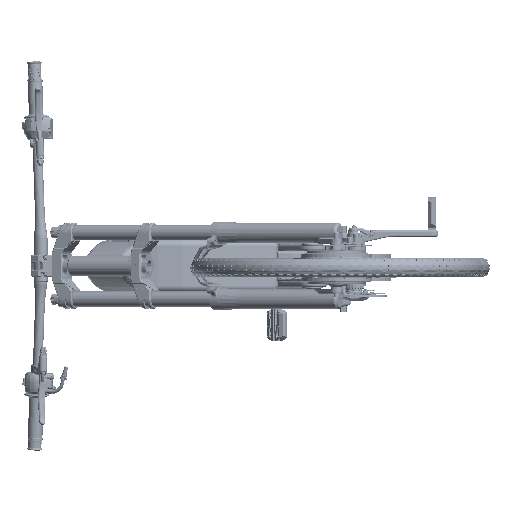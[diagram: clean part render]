
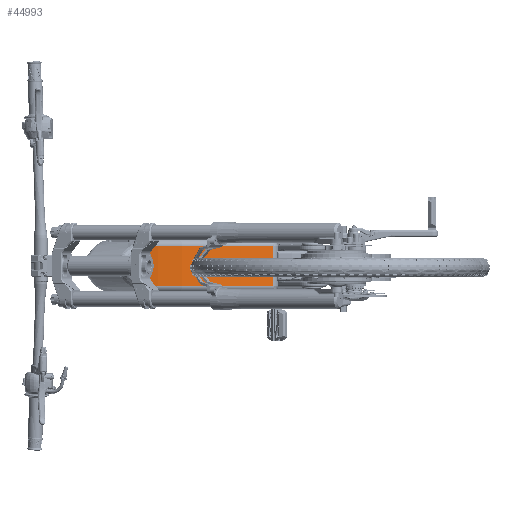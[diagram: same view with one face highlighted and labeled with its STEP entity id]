
A CAD part, left-side view. The second image highlights one B-rep face of the part: STEP entity #44993.
In plain terms, the highlighted cylindrical face has radius 600.925 mm (diameter 1201.85 mm), a partial arc.
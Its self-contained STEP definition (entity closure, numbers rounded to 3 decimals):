
#18487=DIRECTION('',(0.,0.,1.));
#18488=VECTOR('',#18487,90.);
#18489=CARTESIAN_POINT('',(-124.238,183.476,-45.));
#18490=LINE('',#18489,#18488);
#18506=CARTESIAN_POINT('',(-690.506,-17.65,-45.));
#18507=DIRECTION('',(0.,0.,1.));
#18508=DIRECTION('',(0.942,0.335,0.));
#18509=AXIS2_PLACEMENT_3D('',#18506,#18507,#18508);
#18511=CARTESIAN_POINT('',(-306.568,444.63,-45.));
#18512=CARTESIAN_POINT('',(-312.681,449.706,
-45.));
#18513=CARTESIAN_POINT('',(-324.783,459.334,
-44.176));
#18514=CARTESIAN_POINT('',(-341.445,471.647,
-41.136));
#18515=CARTESIAN_POINT('',(-359.411,484.002,
-35.874));
#18516=CARTESIAN_POINT('',(-378.727,496.241,
-27.766));
#18517=CARTESIAN_POINT('',(-392.275,504.108,
-20.157));
#18518=CARTESIAN_POINT('',(-399.175,507.932,
-15.698));
#18520=CARTESIAN_POINT('',(-398.86,507.758,
-14.903));
#18521=CARTESIAN_POINT('',(-398.912,507.786,
-15.036));
#18522=CARTESIAN_POINT('',(-399.015,507.844,
-15.302));
#18523=CARTESIAN_POINT('',(-399.121,507.903,
-15.566));
#18524=CARTESIAN_POINT('',(-399.175,507.932,
-15.698));
#18526=CARTESIAN_POINT('',(-396.129,506.233,
0.));
#18527=CARTESIAN_POINT('',(-396.13,506.233,
-2.59));
#18528=CARTESIAN_POINT('',(-396.599,506.497,
-7.664));
#18529=CARTESIAN_POINT('',(-397.951,507.253,
-12.527));
#18530=CARTESIAN_POINT('',(-398.86,507.758,
-14.903));
#18532=CARTESIAN_POINT('',(-396.129,506.233,
0.));
#18533=CARTESIAN_POINT('',(-396.13,506.233,
2.59));
#18534=CARTESIAN_POINT('',(-396.599,506.497,
7.664));
#18535=CARTESIAN_POINT('',(-397.951,507.253,
12.527));
#18536=CARTESIAN_POINT('',(-398.86,507.758,
14.903));
#18538=CARTESIAN_POINT('',(-398.86,507.758,
14.903));
#18539=CARTESIAN_POINT('',(-398.912,507.786,
15.036));
#18540=CARTESIAN_POINT('',(-399.015,507.844,
15.302));
#18541=CARTESIAN_POINT('',(-399.121,507.903,
15.566));
#18542=CARTESIAN_POINT('',(-399.175,507.932,
15.698));
#18544=CARTESIAN_POINT('',(-306.568,444.63,45.));
#18545=CARTESIAN_POINT('',(-312.681,449.706,
45.));
#18546=CARTESIAN_POINT('',(-324.783,459.334,
44.176));
#18547=CARTESIAN_POINT('',(-341.445,471.647,
41.136));
#18548=CARTESIAN_POINT('',(-359.411,484.002,
35.874));
#18549=CARTESIAN_POINT('',(-378.727,496.241,
27.766));
#18550=CARTESIAN_POINT('',(-392.275,504.108,
20.157));
#18551=CARTESIAN_POINT('',(-399.175,507.932,
15.698));
#18553=CARTESIAN_POINT('',(-690.506,-17.65,45.));
#18554=DIRECTION('',(0.,0.,1.));
#18555=DIRECTION('',(0.942,0.335,0.));
#18556=AXIS2_PLACEMENT_3D('',#18553,#18554,#18555);
#20915=CARTESIAN_POINT('',(-398.86,507.758,
14.903));
#20917=VERTEX_POINT('',#20915);
#20944=CARTESIAN_POINT('',(-124.238,183.476,45.));
#20945=VERTEX_POINT('',#20944);
#20948=CARTESIAN_POINT('',(-306.568,444.63,45.));
#20949=VERTEX_POINT('',#20948);
#20953=VERTEX_POINT('',#18551);
#21099=CARTESIAN_POINT('',(-398.86,507.758,
-14.903));
#21101=VERTEX_POINT('',#21099);
#21128=CARTESIAN_POINT('',(-124.238,183.476,-45.));
#21129=VERTEX_POINT('',#21128);
#21132=CARTESIAN_POINT('',(-306.568,444.63,-45.));
#21133=VERTEX_POINT('',#21132);
#21137=VERTEX_POINT('',#18518);
#21293=CARTESIAN_POINT('',(-396.129,506.233,
0.));
#21294=VERTEX_POINT('',#21293);
#44970=CARTESIAN_POINT('',(-690.506,-17.65,0.));
#44971=DIRECTION('',(0.,0.,1.));
#44972=DIRECTION('',(1.,0.,0.));
#44973=AXIS2_PLACEMENT_3D('',#44970,#44971,#44972);
#44974=CYLINDRICAL_SURFACE('',#44973,600.925);
#44975=ORIENTED_EDGE('',*,*,#44924,.F.);
#44976=ORIENTED_EDGE('',*,*,#44961,.T.);
#44978=ORIENTED_EDGE('',*,*,#44977,.T.);
#44980=ORIENTED_EDGE('',*,*,#44979,.F.);
#44982=ORIENTED_EDGE('',*,*,#44981,.F.);
#44984=ORIENTED_EDGE('',*,*,#44983,.T.);
#44986=ORIENTED_EDGE('',*,*,#44985,.T.);
#44988=ORIENTED_EDGE('',*,*,#44987,.F.);
#44990=ORIENTED_EDGE('',*,*,#44989,.F.);
#44991=EDGE_LOOP('',(#44975,#44976,#44978,#44980,#44982,#44984,#44986,#44988,
#44990));
#44992=FACE_OUTER_BOUND('',#44991,.F.);
#44993=ADVANCED_FACE('',(#44992),#44974,.F.);
#18510=CIRCLE('',#18509,600.925);
#18519=B_SPLINE_CURVE_WITH_KNOTS('',3,(#18511,#18512,#18513,#18514,#18515,
#18516,#18517,#18518),.UNSPECIFIED.,.F.,.F.,(4,1,1,1,1,4),(0.,0.2,0.4,
0.6,0.8,1.),.UNSPECIFIED.);
#18525=B_SPLINE_CURVE_WITH_KNOTS('',3,(#18520,#18521,#18522,#18523,#18524),
.UNSPECIFIED.,.F.,.F.,(4,1,4),(0.,0.5,1.),.UNSPECIFIED.);
#18531=B_SPLINE_CURVE_WITH_KNOTS('',3,(#18526,#18527,#18528,#18529,#18530),
.UNSPECIFIED.,.F.,.F.,(4,1,4),(0.,0.5,1.),.UNSPECIFIED.);
#18537=B_SPLINE_CURVE_WITH_KNOTS('',3,(#18532,#18533,#18534,#18535,#18536),
.UNSPECIFIED.,.F.,.F.,(4,1,4),(0.,0.5,1.),.UNSPECIFIED.);
#18543=B_SPLINE_CURVE_WITH_KNOTS('',3,(#18538,#18539,#18540,#18541,#18542),
.UNSPECIFIED.,.F.,.F.,(4,1,4),(0.,0.5,1.),.UNSPECIFIED.);
#18552=B_SPLINE_CURVE_WITH_KNOTS('',3,(#18544,#18545,#18546,#18547,#18548,
#18549,#18550,#18551),.UNSPECIFIED.,.F.,.F.,(4,1,1,1,1,4),(0.,0.2,0.4,
0.6,0.8,1.),.UNSPECIFIED.);
#18557=CIRCLE('',#18556,600.925);
#44924=EDGE_CURVE('',#21129,#20945,#18490,.T.);
#44961=EDGE_CURVE('',#21129,#21133,#18510,.T.);
#44977=EDGE_CURVE('',#21133,#21137,#18519,.T.);
#44979=EDGE_CURVE('',#21101,#21137,#18525,.T.);
#44981=EDGE_CURVE('',#21294,#21101,#18531,.T.);
#44983=EDGE_CURVE('',#21294,#20917,#18537,.T.);
#44985=EDGE_CURVE('',#20917,#20953,#18543,.T.);
#44987=EDGE_CURVE('',#20949,#20953,#18552,.T.);
#44989=EDGE_CURVE('',#20945,#20949,#18557,.T.);
